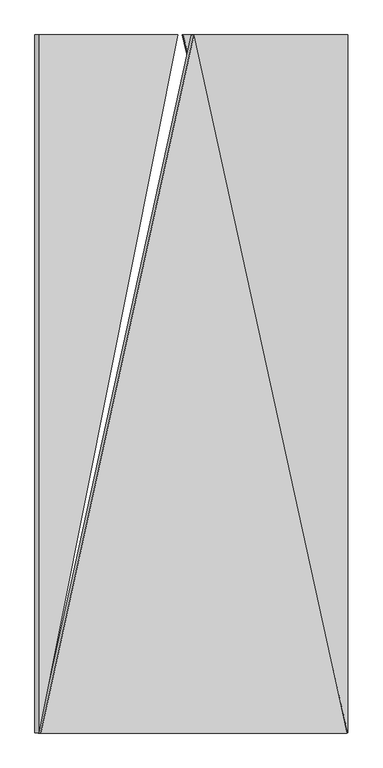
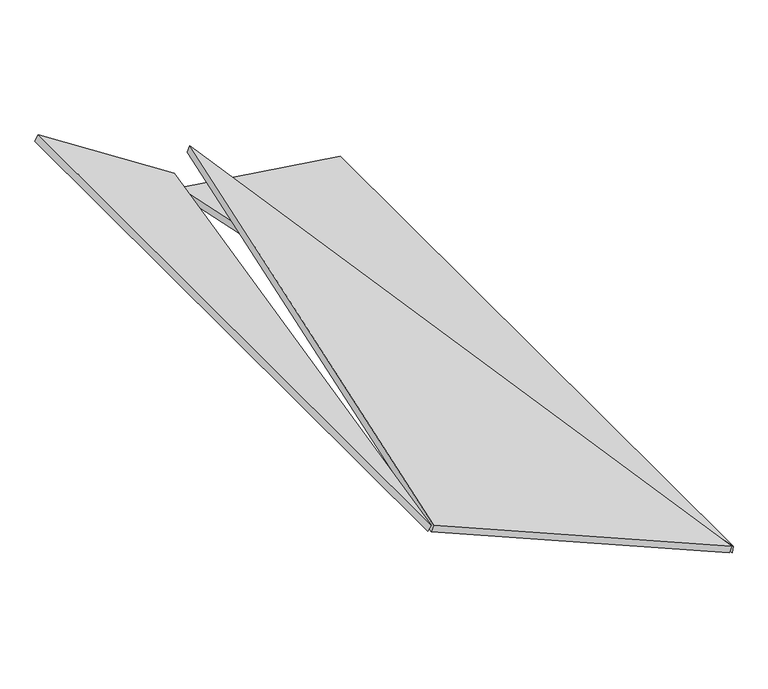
"""IFC4 building model written with IfcOpenShell, lengths in millimetres: proxy geometry, panel sufitowy 6 : panel sufitowy 6."""

from ifc_helpers import new_model, si_unit, frame, origin, place, context, project, spatial, polyline, outline, extrude, source, transform, mapped, element, save


def generic_models_ceb30a04(model_context):
    return source(origin(), model_context, "Body", "SweptSolid", [
        extrude(outline(polyline([(-900.9098917, 0.0), (1006.1909889, 962.7191946), (1235.4098448, -1e-07), (-900.9098917, 0.0)])), frame((499.94535, 1457.4151922, 970.7213788), z_axis=(0.3907311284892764, 0.0, 0.9205048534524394), x_axis=(-0.21320781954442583, -0.9728062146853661, 0.09050135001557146)), (0.0, 0.0, 1.0), 20.0),
        extrude(outline(polyline([(-127.5, 0.0), (-127.5, -2079.0), (-622.5, 0.0), (-127.5, 0.0)])), frame((1282.8831958, 2335.0, 674.2332519), z_axis=(0.13917310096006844, 0.0, 0.9902680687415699), x_axis=(0.9902680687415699, 0.0, -0.13917310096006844)), (0.0, 0.0, 1.0), 20.0),
        extrude(outline(polyline([(-127.5, 0.0), (-622.5, 0.0), (-127.5, 2079.0), (-127.5, 0.0)])), frame((119.9836176, 2335.0, 1156.057739), z_axis=(0.5446390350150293, 0.0, 0.8386705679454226), x_axis=(-0.8386705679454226, 0.0, 0.5446390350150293)), (0.0, 0.0, 1.0), 20.0),
    ])


if __name__ == "__main__":
    model = new_model("IFC4")
    model_context = context("Model", 3, world=origin())
    ifc_project = project(units=[si_unit("LENGTHUNIT", "METRE", prefix="MILLI")], contexts=[model_context])
    site = spatial("IfcSite", under=ifc_project)
    building = spatial("IfcBuilding", under=site)
    placement = place(None, origin())
    generic_models_shape = generic_models_ceb30a04(model_context)
    element("IfcBuildingElementProxy", 1, Name="panel sufitowy 6 : panel sufitowy 6", ObjectType="panel sufitowy 6 : panel sufitowy 6", at=placement, inside=building, context=model_context, shape_type="MappedRepresentation", body=[
        mapped(generic_models_shape, transform((0.0, 0.0, 0.0), x_axis=(1.0, 0.0, 0.0), y_axis=(0.0, 1.0, 0.0), z_axis=(0.0, 0.0, 1.0))),
    ])
    save(model, "model.ifc")
